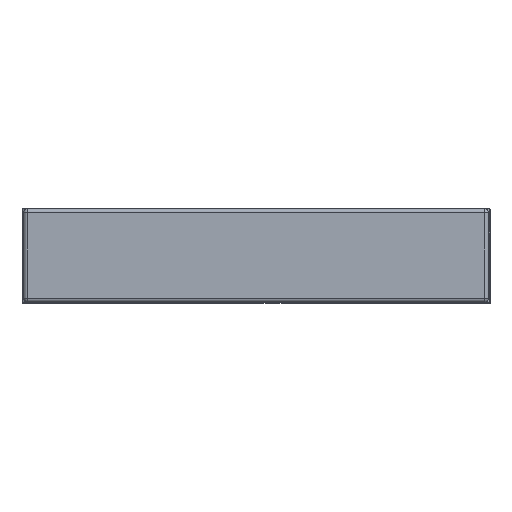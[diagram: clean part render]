
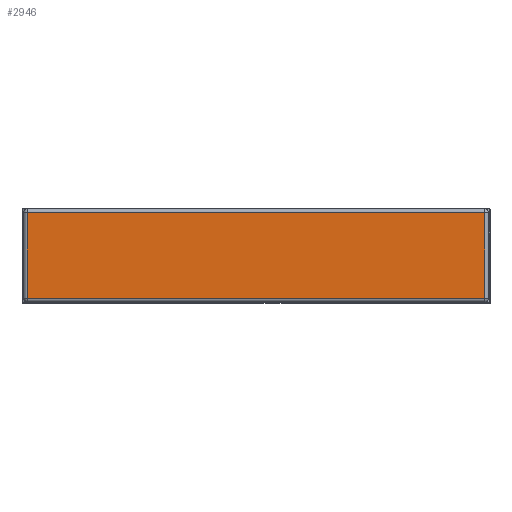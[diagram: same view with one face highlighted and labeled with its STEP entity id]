
A CAD part, top view. The second image highlights one B-rep face of the part: STEP entity #2946.
In plain terms, the highlighted planar face has unit normal (0, 0, 1).
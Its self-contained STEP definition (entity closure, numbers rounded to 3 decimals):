
#2946=ADVANCED_FACE('',(#10077),#10079,.T.);
#10077=FACE_BOUND('',#10078,.T.);
#10078=EDGE_LOOP('',(#14812,#14813,#14814,#14815));
#10079=PLANE('',#10080);
#10080=AXIS2_PLACEMENT_3D('',#10081,#10082,#10083);
#10081=CARTESIAN_POINT('',(-0.2,12.,65.));
#10082=DIRECTION('',(0.,0.,1.));
#10083=DIRECTION('',(-1.,0.,0.));
#14812=ORIENTED_EDGE('',*,*,#17905,.T.);
#14813=ORIENTED_EDGE('',*,*,#17912,.T.);
#14814=ORIENTED_EDGE('',*,*,#17894,.T.);
#14815=ORIENTED_EDGE('',*,*,#17913,.T.);
#17894=EDGE_CURVE('',#20490,#20483,#20491,.T.);
#17905=EDGE_CURVE('',#20505,#20502,#20506,.T.);
#17912=EDGE_CURVE('',#20502,#20490,#20514,.T.);
#17913=EDGE_CURVE('',#20483,#20505,#20515,.T.);
#20483=VERTEX_POINT('',#25694);
#20490=VERTEX_POINT('',#25730);
#20491=LINE('',#25731,#25732);
#20502=VERTEX_POINT('',#25796);
#20505=VERTEX_POINT('',#25805);
#20506=LINE('',#25806,#25807);
#20514=LINE('',#25847,#25848);
#20515=LINE('',#25850,#25851);
#25694=CARTESIAN_POINT('',(-59.3,11.5,65.));
#25730=CARTESIAN_POINT('',(-0.7,11.5,65.));
#25731=CARTESIAN_POINT('',(-0.7,11.5,65.));
#25732=VECTOR('',#25733,1.);
#25733=DIRECTION('',(-1.,0.,0.));
#25796=CARTESIAN_POINT('',(-0.7,0.5,65.));
#25805=CARTESIAN_POINT('',(-59.3,0.5,65.));
#25806=CARTESIAN_POINT('',(-59.3,0.5,65.));
#25807=VECTOR('',#25808,1.);
#25808=DIRECTION('',(1.,0.,0.));
#25847=CARTESIAN_POINT('',(-0.7,0.5,65.));
#25848=VECTOR('',#25849,1.);
#25849=DIRECTION('',(0.,1.,0.));
#25850=CARTESIAN_POINT('',(-59.3,11.5,65.));
#25851=VECTOR('',#25852,1.);
#25852=DIRECTION('',(0.,-1.,0.));
